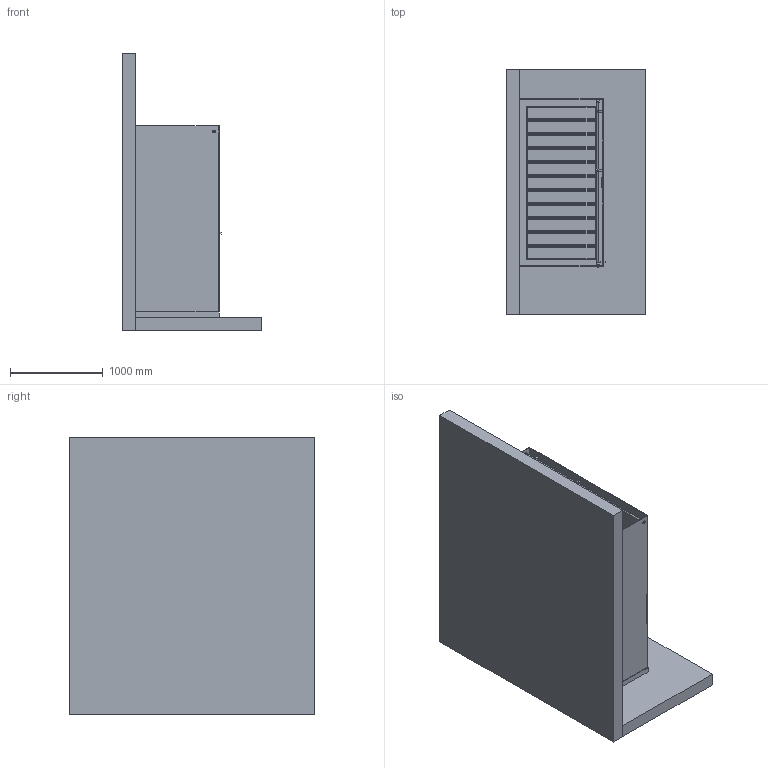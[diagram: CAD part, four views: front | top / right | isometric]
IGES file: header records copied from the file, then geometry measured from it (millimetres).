
Global section: file name: \\Archi-NAS\Comune\X GIOVANNI\SCHEDE PRODOTTO\BOX DOCCIA\DISEGNI 3D\BX 100\MOMA DESIGN_BOX DOCCIA_BX101.igs; native system: Rhinoceros ( Jan 17 2018 ); preprocessor: Trout Lake IGES 012 Jan 17 2018; date: 230622.160100; units: millimetre
Bounding box: 1502.28 x 2641.25 x 2983.36 mm (x, y, z)
Surface area: 46392703.7 mm2 (no closed solid volume)
Topology: 0 solids, 0 shells, 696 faces, 4288 edges, 4999 vertices
Faces by surface type: bspline 696
